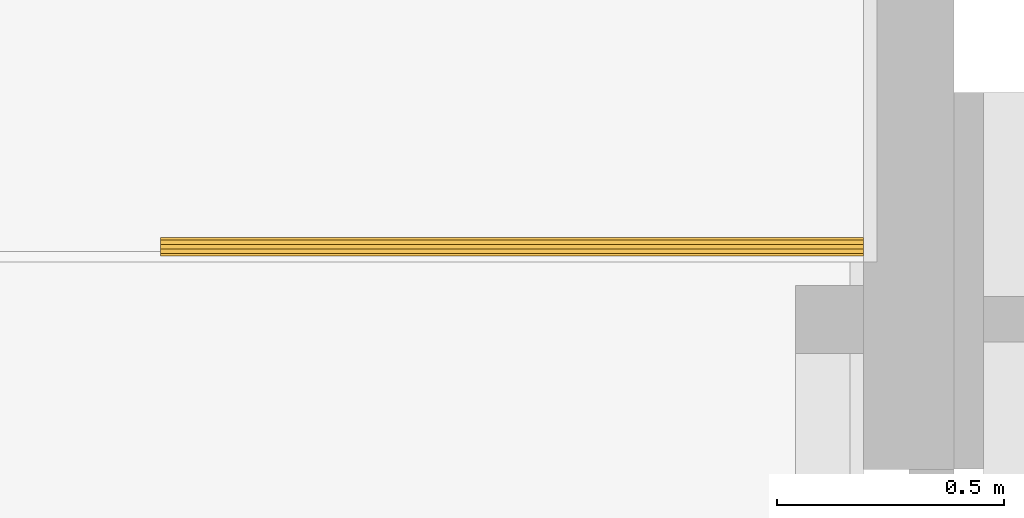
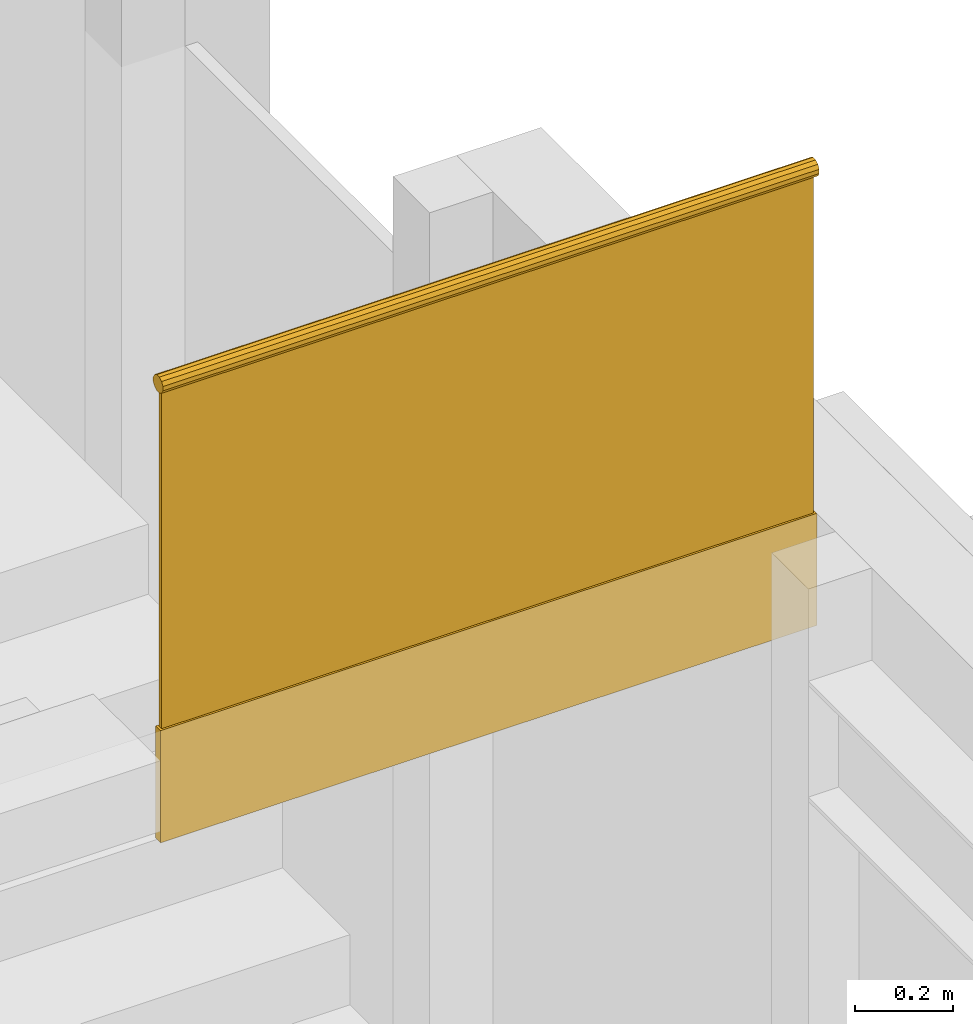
# One storey, part 41 of 45: 1 railing.
"""IFC2X3 building model written with IfcOpenShell, lengths in millimetres."""

from ifc_helpers import new_model, entity, si_unit, converted_unit, frame, origin, place, context, subcontext, project, spatial, faceted_brep, material, element, save


model = new_model("IFC2X3")

# Units and contexts
model_context = context("Model", 3, precision=1e-05, world=origin())
plan_context = context("Plan", 3, precision=1e-05, world=origin())
body_context = subcontext(model_context, "Body", "Model", "MODEL_VIEW")
ifc_project = project(units=[si_unit("LENGTHUNIT", "METRE", prefix="MILLI"), converted_unit("PLANEANGLEUNIT", "DEGREE", entity("IfcPlaneAngleMeasure", 0.0174532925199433), si_unit("PLANEANGLEUNIT", "RADIAN"), dimensions=[0, 0, 0, 0, 0, 0, 0]), si_unit("AREAUNIT", "SQUARE_METRE"), si_unit("VOLUMEUNIT", "CUBIC_METRE")], contexts=[model_context, plan_context])

# Building, storey
building_placement = place(None, origin())
building = spatial("IfcBuilding", under=ifc_project, at=building_placement, Name="HEKF Administrasjonbygg", CompositionType="ELEMENT")
storey_placement = place(building_placement, frame((0.0, 0.0, 6500.0), z_axis=(0.0, 0.0, 1.0), x_axis=(1.0, 0.0, 0.0)))
storey = spatial("IfcBuildingStorey", under=building, at=storey_placement, Name="Plan 1", CompositionType="ELEMENT", Elevation=6500.0)

# Railing
ifc_material = material()
railing_placement = place(storey_placement, frame((28449.99, -7860.010000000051, 3119.99), z_axis=(0.0, 0.0, 1.0), x_axis=(1.0, 0.0, 0.0)))
element("IfcRailing", 1, at=railing_placement, inside=storey, material=ifc_material, Name="Rail_Path", PredefinedType="NOTDEFINED", context=body_context, shape_type="Brep", body=[
    faceted_brep([(0.00999999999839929, 40.01000000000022, 1145.368983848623), (0.00999999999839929, 34.65101615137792, 1154.651016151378), (0.00999999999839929, 25.36898384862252, 1160.01), (0.00999999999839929, 14.65101615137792, 1160.01), (0.00999999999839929, 5.36898384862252, 1154.651016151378), (0.00999999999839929, 0.01000000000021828, 1145.368983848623), (0.00999999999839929, 0.01000000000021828, 1134.651016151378), (0.00999999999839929, 5.36898384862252, 1125.368983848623), (0.00999999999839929, 14.65101615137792, 1120.01), (0.00999999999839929, 25.36898384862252, 1120.01), (0.00999999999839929, 34.65101615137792, 1125.368983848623), (0.00999999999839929, 40.01000000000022, 1134.651016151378), (1550.009999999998, 40.01000000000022, 1145.368983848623), (1550.009999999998, 40.01000000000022, 1134.651016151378), (1550.009999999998, 34.65101615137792, 1125.368983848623), (1550.009999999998, 25.36898384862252, 1120.01), (1550.009999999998, 14.65101615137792, 1120.01), (1550.009999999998, 5.36898384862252, 1125.368983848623), (1550.009999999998, 0.01000000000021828, 1134.651016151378), (1550.009999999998, 0.01000000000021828, 1145.368983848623), (1550.009999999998, 5.36898384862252, 1154.651016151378), (1550.009999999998, 14.65101615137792, 1160.01), (1550.009999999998, 25.36898384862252, 1160.01), (1550.009999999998, 34.65101615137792, 1154.651016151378), (0.00999999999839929, 40.01000000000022, 1145.368983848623), (1550.009999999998, 40.01000000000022, 1145.368983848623), (1550.009999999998, 34.65101615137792, 1154.651016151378), (0.00999999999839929, 34.65101615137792, 1154.651016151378), (0.00999999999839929, 34.65101615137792, 1154.651016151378), (1550.009999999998, 34.65101615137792, 1154.651016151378), (1550.009999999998, 25.36898384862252, 1160.01), (0.00999999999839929, 25.36898384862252, 1160.01), (0.00999999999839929, 25.36898384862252, 1160.01), (1550.009999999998, 25.36898384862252, 1160.01), (1550.009999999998, 14.65101615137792, 1160.01), (0.00999999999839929, 14.65101615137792, 1160.01), (0.00999999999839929, 14.65101615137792, 1160.01), (1550.009999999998, 14.65101615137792, 1160.01), (1550.009999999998, 5.36898384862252, 1154.651016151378), (0.00999999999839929, 5.36898384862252, 1154.651016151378), (0.00999999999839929, 5.36898384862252, 1154.651016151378), (1550.009999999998, 5.36898384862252, 1154.651016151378), (1550.009999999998, 0.01000000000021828, 1145.368983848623), (0.00999999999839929, 0.01000000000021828, 1145.368983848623), (0.00999999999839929, 0.01000000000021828, 1145.368983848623), (1550.009999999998, 0.01000000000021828, 1145.368983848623), (1550.009999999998, 0.01000000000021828, 1134.651016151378), (0.00999999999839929, 0.01000000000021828, 1134.651016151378), (0.00999999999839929, 0.01000000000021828, 1134.651016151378), (1550.009999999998, 0.01000000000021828, 1134.651016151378), (1550.009999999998, 5.36898384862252, 1125.368983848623), (0.00999999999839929, 5.36898384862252, 1125.368983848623), (0.00999999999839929, 5.36898384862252, 1125.368983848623), (1550.009999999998, 5.36898384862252, 1125.368983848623), (1550.009999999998, 14.65101615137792, 1120.01), (0.00999999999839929, 14.65101615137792, 1120.01), (0.00999999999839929, 14.65101615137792, 1120.01), (1550.009999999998, 14.65101615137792, 1120.01), (1550.009999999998, 25.36898384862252, 1120.01), (0.00999999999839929, 25.36898384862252, 1120.01), (0.00999999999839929, 25.36898384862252, 1120.01), (1550.009999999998, 25.36898384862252, 1120.01), (1550.009999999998, 34.65101615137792, 1125.368983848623), (0.00999999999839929, 34.65101615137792, 1125.368983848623), (0.00999999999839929, 34.65101615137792, 1125.368983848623), (1550.009999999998, 34.65101615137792, 1125.368983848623), (1550.009999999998, 40.01000000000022, 1134.651016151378), (0.00999999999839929, 40.01000000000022, 1134.651016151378), (0.00999999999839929, 40.01000000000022, 1134.651016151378), (1550.009999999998, 40.01000000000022, 1134.651016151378), (1550.009999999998, 40.01000000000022, 1145.368983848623), (0.00999999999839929, 40.01000000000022, 1145.368983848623)], [[[0, 1, 2, 3, 4, 5, 6, 7, 8, 9, 10, 11]], [[12, 13, 14, 15, 16, 17, 18, 19, 20, 21, 22, 23]], [[24, 25, 26, 27]], [[28, 29, 30, 31]], [[32, 33, 34, 35]], [[36, 37, 38, 39]], [[40, 41, 42, 43]], [[44, 45, 46, 47]], [[48, 49, 50, 51]], [[52, 53, 54, 55]], [[56, 57, 58, 59]], [[60, 61, 62, 63]], [[64, 65, 66, 67]], [[68, 69, 70, 71]]], orient=[[False], [False], [False], [False], [False], [False], [False], [False], [False], [False], [False], [False], [False], [False]]),
    faceted_brep([(0.00999999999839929, 30.01000000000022, 280.0100000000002), (0.00999999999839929, 10.01000000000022, 280.0100000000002), (0.00999999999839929, 10.01000000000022, 0.01000000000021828), (0.00999999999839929, 30.01000000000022, 0.01000000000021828), (1550.009999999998, 30.01000000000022, 280.0100000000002), (1550.009999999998, 30.01000000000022, 0.01000000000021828), (1550.009999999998, 10.01000000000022, 0.01000000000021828), (1550.009999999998, 10.01000000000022, 280.0100000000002), (0.00999999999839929, 30.01000000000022, 280.0100000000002), (1550.009999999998, 30.01000000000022, 280.0100000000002), (1550.009999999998, 10.01000000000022, 280.0100000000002), (0.00999999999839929, 10.01000000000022, 280.0100000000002), (0.00999999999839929, 10.01000000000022, 280.0100000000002), (1550.009999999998, 10.01000000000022, 280.0100000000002), (1550.009999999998, 10.01000000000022, 0.01000000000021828), (0.00999999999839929, 10.01000000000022, 0.01000000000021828), (0.00999999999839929, 10.01000000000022, 0.01000000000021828), (1550.009999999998, 10.01000000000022, 0.01000000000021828), (1550.009999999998, 30.01000000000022, 0.01000000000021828), (0.00999999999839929, 30.01000000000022, 0.01000000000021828), (0.00999999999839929, 30.01000000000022, 0.01000000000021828), (1550.009999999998, 30.01000000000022, 0.01000000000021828), (1550.009999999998, 30.01000000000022, 280.0100000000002), (0.00999999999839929, 30.01000000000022, 280.0100000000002)], [[[0, 1, 2, 3]], [[4, 5, 6, 7]], [[8, 9, 10, 11]], [[12, 13, 14, 15]], [[16, 17, 18, 19]], [[20, 21, 22, 23]]], orient=[[False], [False], [False], [False], [False], [False]]),
    faceted_brep([(5.009999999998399, 25.01000000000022, 1120.01), (5.009999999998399, 15.01000000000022, 1120.01), (5.009999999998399, 15.01000000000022, 280.0100000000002), (5.009999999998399, 25.01000000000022, 280.0100000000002), (1545.009999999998, 25.01000000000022, 1120.01), (1545.009999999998, 25.01000000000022, 280.0100000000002), (1545.009999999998, 15.01000000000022, 280.0100000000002), (1545.009999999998, 15.01000000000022, 1120.01), (5.009999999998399, 25.01000000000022, 1120.01), (1545.009999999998, 25.01000000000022, 1120.01), (1545.009999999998, 15.01000000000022, 1120.01), (5.009999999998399, 15.01000000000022, 1120.01), (5.009999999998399, 15.01000000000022, 1120.01), (1545.009999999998, 15.01000000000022, 1120.01), (1545.009999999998, 15.01000000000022, 280.0100000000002), (5.009999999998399, 15.01000000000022, 280.0100000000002), (5.009999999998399, 15.01000000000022, 280.0100000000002), (1545.009999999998, 15.01000000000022, 280.0100000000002), (1545.009999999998, 25.01000000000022, 280.0100000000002), (5.009999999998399, 25.01000000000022, 280.0100000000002), (5.009999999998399, 25.01000000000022, 280.0100000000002), (1545.009999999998, 25.01000000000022, 280.0100000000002), (1545.009999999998, 25.01000000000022, 1120.01), (5.009999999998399, 25.01000000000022, 1120.01)], [[[0, 1, 2, 3]], [[4, 5, 6, 7]], [[8, 9, 10, 11]], [[12, 13, 14, 15]], [[16, 17, 18, 19]], [[20, 21, 22, 23]]], orient=[[False], [False], [False], [False], [False], [False]]),
])

save(model, "model.ifc")
